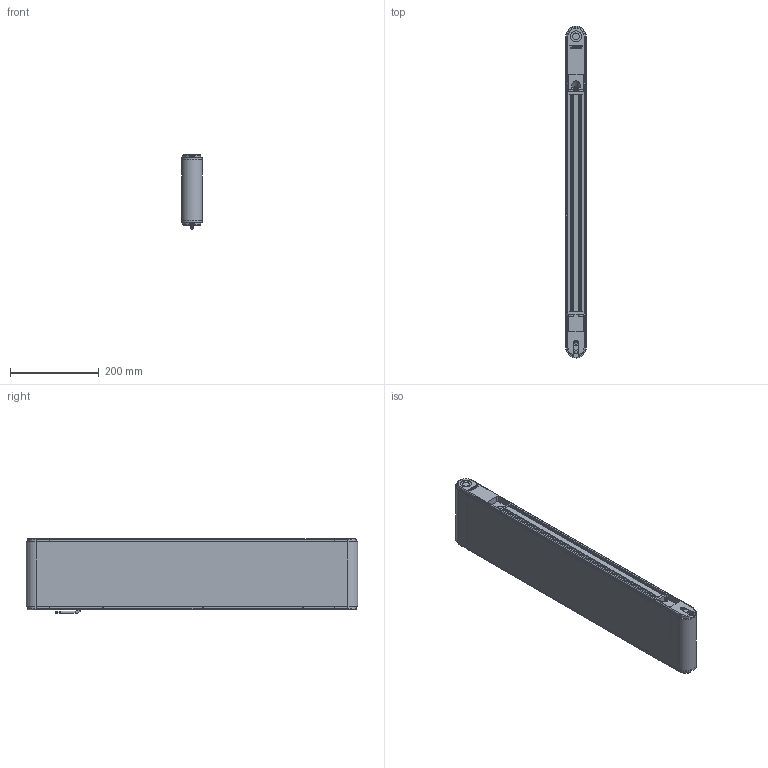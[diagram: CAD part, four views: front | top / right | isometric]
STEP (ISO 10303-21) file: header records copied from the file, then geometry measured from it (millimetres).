
FILE_DESCRIPTION(/* description */ (''),/* implementation_level */ '2;1');
FILE_NAME(/* name */ 'G:\DATEN\CAD\Förderband\Marketing\3D-Modelle (Standard)\FR-40-160\FR-40-160-700-K.stp',/* time_stamp */ '2019-05-08T09:07:31+02:00',/* author */ ('melanie.ochs'),/* organization */ (''),/* preprocessor_version */ 'ST-DEVELOPER v17',/* originating_system */ 'Autodesk Inventor 2019',/* authorisation */ '');
FILE_SCHEMA (('CONFIG_CONTROL_DESIGN'));
Length unit declared in the file: centimetre
Products named in the file (1): FR-40-160-700-K
Bounding box: 46.6 x 746.6 x 168.53 mm (x, y, z)
Volume: 2162900.9 mm3; surface area: 835673.6 mm2
Topology: 6 solids, 25 shells, 1002 faces, 2728 edges, 1821 vertices
Faces by surface type: plane 513, cylinder 278, bspline 122, cone 64, torus 25
Full cylindrical faces by diameter (mm): 2 x2, 4 x6, 4.3 x4, 4.917 x1, 5 x11, 5.5 x8, 6 x4, 6.5 x1, 6.647 x3, 8 x4, 8.3 x6, 8.5 x8, 8.773 x1, 10 x1, 11 x1, 12 x5, 15 x2, 20 x4, 25 x2, 28 x4
Entity records: 34116 total; most frequent: CARTESIAN_POINT 8111, ORIENTED_EDGE 5426, DIRECTION 4904, EDGE_CURVE 2713, VERTEX_POINT 1821, AXIS2_PLACEMENT_3D 1702, LINE 1500, VECTOR 1500
